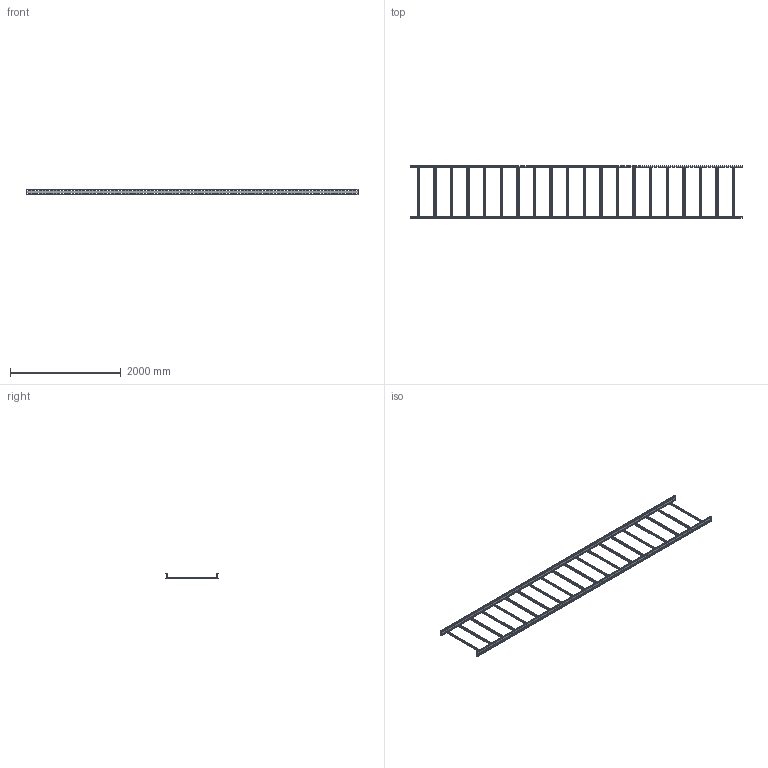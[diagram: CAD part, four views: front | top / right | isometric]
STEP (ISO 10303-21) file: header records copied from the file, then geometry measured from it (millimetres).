
FILE_DESCRIPTION(/* description */ ('','CAx-IF Rec.Pracs.---Representation and Presentation of Product Manufacturing Information (PMI)---4.0---2014-10-13'),/* implementation_level */ '2;1');
FILE_NAME(/* name */ 'Eurostrut_ECL100-900-6_Cable Ladder.step',/* time_stamp */ '2026-09-03T12:00:47+02:00',/* author */ (''),/* organization */ (''),/* preprocessor_version */ 'ST-DEVELOPER v20.1',/* originating_system */ 'Autodesk Revit 2027 27.2.0.39',/* authorisation */ '');
FILE_SCHEMA (('AP242_MANAGED_MODEL_BASED_3D_ENGINEERING_MIM_LF { 1 0 10303 442 2 1 4 }'));
Products named in the file (4): TopLevelAssembly; 60mm; 60mm_1; Cable Ladder Rung_Slotted
Assembly tree (22 placements, depth 2):
  TopLevelAssembly
    60mm
    60mm_1
    Cable Ladder Rung_Slotted  x20
Bounding box: 6000 x 946 x 100 mm (x, y, z)
Volume: 5868960.9 mm3; surface area: 6799091.7 mm2
Topology: 22 solids, 22 shells, 5940 faces, 17688 edges, 11792 vertices
Faces by surface type: plane 4036, bspline 1800, cylinder 104
Entity records: 76828 total; most frequent: CARTESIAN_POINT 15846, ORIENTED_EDGE 13032, DIRECTION 10980, EDGE_CURVE 6516, LINE 6280, VECTOR 6280, VERTEX_POINT 4344, EDGE_LOOP 3228
